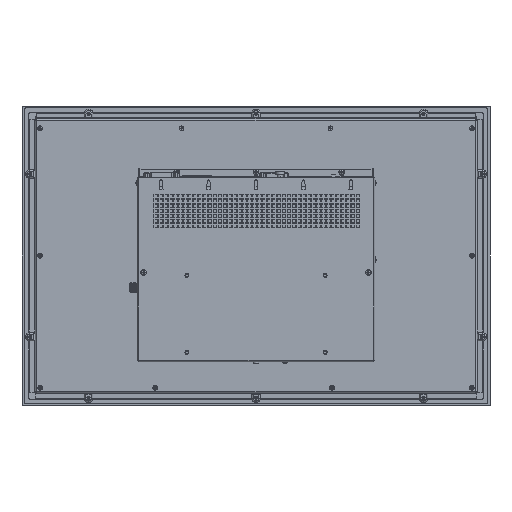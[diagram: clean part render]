
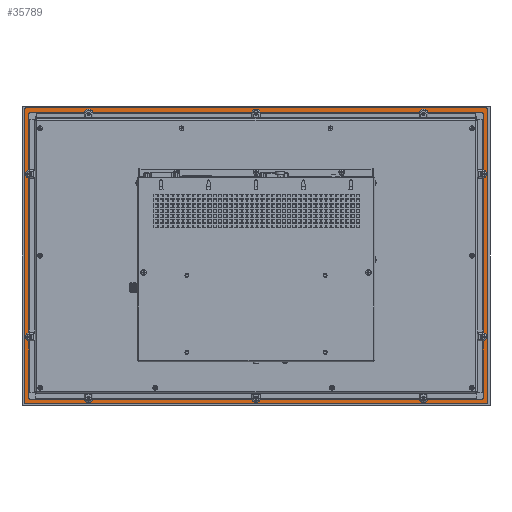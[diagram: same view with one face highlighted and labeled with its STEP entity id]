
A CAD part, front view. The second image highlights one B-rep face of the part: STEP entity #35789.
In plain terms, the highlighted planar face has unit normal (0, -1, 0).
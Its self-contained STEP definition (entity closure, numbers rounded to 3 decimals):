
#33244=CARTESIAN_POINT('',(247.,0.5,-149.));
#33245=DIRECTION('',(0.,1.,0.));
#33246=DIRECTION('',(1.,0.,0.));
#33247=AXIS2_PLACEMENT_3D('',#33244,#33245,#33246);
#33249=DIRECTION('',(-1.,0.,0.));
#33250=VECTOR('',#33249,494.);
#33251=CARTESIAN_POINT('',(247.,0.5,-151.));
#33252=LINE('',#33251,#33250);
#33253=CARTESIAN_POINT('',(-247.,0.5,-149.));
#33254=DIRECTION('',(0.,1.,0.));
#33255=DIRECTION('',(0.,0.,-1.));
#33256=AXIS2_PLACEMENT_3D('',#33253,#33254,#33255);
#33258=DIRECTION('',(0.,0.,1.));
#33259=VECTOR('',#33258,314.);
#33260=CARTESIAN_POINT('',(-249.,0.5,-149.));
#33261=LINE('',#33260,#33259);
#33262=CARTESIAN_POINT('',(-247.,0.5,165.));
#33263=DIRECTION('',(0.,1.,0.));
#33264=DIRECTION('',(-1.,0.,0.));
#33265=AXIS2_PLACEMENT_3D('',#33262,#33263,#33264);
#33267=DIRECTION('',(1.,0.,0.));
#33268=VECTOR('',#33267,494.);
#33269=CARTESIAN_POINT('',(-247.,0.5,167.));
#33270=LINE('',#33269,#33268);
#33271=CARTESIAN_POINT('',(247.,0.5,165.));
#33272=DIRECTION('',(0.,1.,0.));
#33273=DIRECTION('',(0.,0.,1.));
#33274=AXIS2_PLACEMENT_3D('',#33271,#33272,#33273);
#33276=DIRECTION('',(0.,0.,-1.));
#33277=VECTOR('',#33276,314.);
#33278=CARTESIAN_POINT('',(249.,0.5,165.));
#33279=LINE('',#33278,#33277);
#33280=CARTESIAN_POINT('',(243.,0.5,-145.));
#33281=DIRECTION('',(0.,-1.,0.));
#33282=DIRECTION('',(0.,0.,-1.));
#33283=AXIS2_PLACEMENT_3D('',#33280,#33281,#33282);
#33285=DIRECTION('',(0.,0.,1.));
#33286=VECTOR('',#33285,306.);
#33287=CARTESIAN_POINT('',(244.,0.5,-145.));
#33288=LINE('',#33287,#33286);
#33289=CARTESIAN_POINT('',(243.,0.5,161.));
#33290=DIRECTION('',(0.,-1.,0.));
#33291=DIRECTION('',(1.,0.,0.));
#33292=AXIS2_PLACEMENT_3D('',#33289,#33290,#33291);
#33294=DIRECTION('',(-1.,0.,0.));
#33295=VECTOR('',#33294,486.);
#33296=CARTESIAN_POINT('',(243.,0.5,162.));
#33297=LINE('',#33296,#33295);
#33298=CARTESIAN_POINT('',(-243.,0.5,161.));
#33299=DIRECTION('',(0.,-1.,0.));
#33300=DIRECTION('',(0.,0.,1.));
#33301=AXIS2_PLACEMENT_3D('',#33298,#33299,#33300);
#33303=DIRECTION('',(0.,0.,-1.));
#33304=VECTOR('',#33303,306.);
#33305=CARTESIAN_POINT('',(-244.,0.5,161.));
#33306=LINE('',#33305,#33304);
#33307=CARTESIAN_POINT('',(-243.,0.5,-145.));
#33308=DIRECTION('',(0.,-1.,0.));
#33309=DIRECTION('',(-1.,0.,0.));
#33310=AXIS2_PLACEMENT_3D('',#33307,#33308,#33309);
#33312=DIRECTION('',(1.,0.,0.));
#33313=VECTOR('',#33312,486.);
#33314=CARTESIAN_POINT('',(-243.,0.5,-146.));
#33315=LINE('',#33314,#33313);
#34670=CARTESIAN_POINT('',(249.,0.5,-149.));
#34671=CARTESIAN_POINT('',(247.,0.5,-151.));
#34672=VERTEX_POINT('',#34670);
#34673=VERTEX_POINT('',#34671);
#34674=CARTESIAN_POINT('',(249.,0.5,165.));
#34675=VERTEX_POINT('',#34674);
#34676=CARTESIAN_POINT('',(247.,0.5,167.));
#34677=VERTEX_POINT('',#34676);
#34678=CARTESIAN_POINT('',(-247.,0.5,167.));
#34679=VERTEX_POINT('',#34678);
#34680=CARTESIAN_POINT('',(-249.,0.5,165.));
#34681=VERTEX_POINT('',#34680);
#34682=CARTESIAN_POINT('',(-249.,0.5,-149.));
#34683=VERTEX_POINT('',#34682);
#34684=CARTESIAN_POINT('',(-247.,0.5,-151.));
#34685=VERTEX_POINT('',#34684);
#34734=CARTESIAN_POINT('',(243.,0.5,-146.));
#34735=CARTESIAN_POINT('',(244.,0.5,-145.));
#34736=VERTEX_POINT('',#34734);
#34737=VERTEX_POINT('',#34735);
#34738=CARTESIAN_POINT('',(244.,0.5,161.));
#34739=VERTEX_POINT('',#34738);
#34740=CARTESIAN_POINT('',(243.,0.5,162.));
#34741=VERTEX_POINT('',#34740);
#34742=CARTESIAN_POINT('',(-243.,0.5,162.));
#34743=VERTEX_POINT('',#34742);
#34744=CARTESIAN_POINT('',(-244.,0.5,161.));
#34745=VERTEX_POINT('',#34744);
#34746=CARTESIAN_POINT('',(-244.,0.5,-145.));
#34747=VERTEX_POINT('',#34746);
#34748=CARTESIAN_POINT('',(-243.,0.5,-146.));
#34749=VERTEX_POINT('',#34748);
#35748=CARTESIAN_POINT('',(0.,0.5,0.));
#35749=DIRECTION('',(0.,-1.,0.));
#35750=DIRECTION('',(-1.,0.,0.));
#35751=AXIS2_PLACEMENT_3D('',#35748,#35749,#35750);
#35752=PLANE('',#35751);
#35754=ORIENTED_EDGE('',*,*,#35753,.T.);
#35756=ORIENTED_EDGE('',*,*,#35755,.T.);
#35758=ORIENTED_EDGE('',*,*,#35757,.T.);
#35760=ORIENTED_EDGE('',*,*,#35759,.T.);
#35762=ORIENTED_EDGE('',*,*,#35761,.T.);
#35764=ORIENTED_EDGE('',*,*,#35763,.T.);
#35766=ORIENTED_EDGE('',*,*,#35765,.T.);
#35768=ORIENTED_EDGE('',*,*,#35767,.T.);
#35769=EDGE_LOOP('',(#35754,#35756,#35758,#35760,#35762,#35764,#35766,#35768));
#35770=FACE_OUTER_BOUND('',#35769,.F.);
#35772=ORIENTED_EDGE('',*,*,#35771,.T.);
#35774=ORIENTED_EDGE('',*,*,#35773,.T.);
#35776=ORIENTED_EDGE('',*,*,#35775,.T.);
#35778=ORIENTED_EDGE('',*,*,#35777,.T.);
#35780=ORIENTED_EDGE('',*,*,#35779,.T.);
#35782=ORIENTED_EDGE('',*,*,#35781,.T.);
#35784=ORIENTED_EDGE('',*,*,#35783,.T.);
#35786=ORIENTED_EDGE('',*,*,#35785,.T.);
#35787=EDGE_LOOP('',(#35772,#35774,#35776,#35778,#35780,#35782,#35784,#35786));
#35788=FACE_BOUND('',#35787,.F.);
#33248=CIRCLE('',#33247,2.);
#33257=CIRCLE('',#33256,2.);
#33266=CIRCLE('',#33265,2.);
#33275=CIRCLE('',#33274,2.);
#33284=CIRCLE('',#33283,1.);
#33293=CIRCLE('',#33292,1.);
#33302=CIRCLE('',#33301,1.);
#33311=CIRCLE('',#33310,1.);
#35753=EDGE_CURVE('',#34672,#34673,#33248,.T.);
#35755=EDGE_CURVE('',#34673,#34685,#33252,.T.);
#35757=EDGE_CURVE('',#34685,#34683,#33257,.T.);
#35759=EDGE_CURVE('',#34683,#34681,#33261,.T.);
#35761=EDGE_CURVE('',#34681,#34679,#33266,.T.);
#35763=EDGE_CURVE('',#34679,#34677,#33270,.T.);
#35765=EDGE_CURVE('',#34677,#34675,#33275,.T.);
#35767=EDGE_CURVE('',#34675,#34672,#33279,.T.);
#35771=EDGE_CURVE('',#34736,#34737,#33284,.T.);
#35773=EDGE_CURVE('',#34737,#34739,#33288,.T.);
#35775=EDGE_CURVE('',#34739,#34741,#33293,.T.);
#35777=EDGE_CURVE('',#34741,#34743,#33297,.T.);
#35779=EDGE_CURVE('',#34743,#34745,#33302,.T.);
#35781=EDGE_CURVE('',#34745,#34747,#33306,.T.);
#35783=EDGE_CURVE('',#34747,#34749,#33311,.T.);
#35785=EDGE_CURVE('',#34749,#34736,#33315,.T.);
#35789=ADVANCED_FACE('',(#35770,#35788),#35752,.T.);
